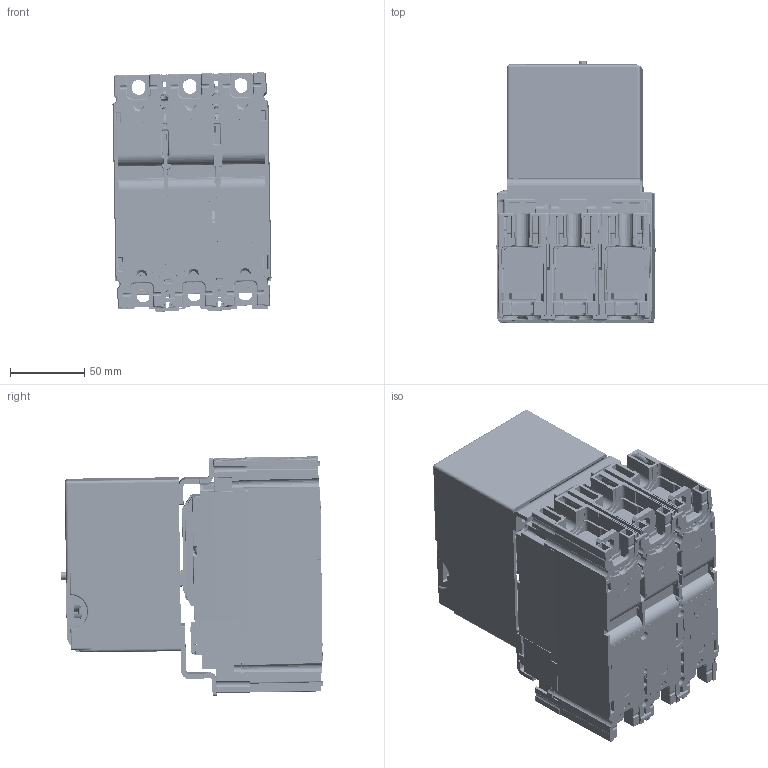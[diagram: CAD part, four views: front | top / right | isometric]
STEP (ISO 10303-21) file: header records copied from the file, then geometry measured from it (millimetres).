
FILE_DESCRIPTION(('STEP AP242'), '1');
FILE_NAME('ÂÀ11-02 ñòàö. èñï. + ïðèâîä', '', ('UNSPECIFIED'), ('UNSPECIFIED'), 'C3D Converter', 'C3D Toolkit', '');
FILE_SCHEMA(('AP242_MANAGED_MODEL_BASED_3D_ENGINEERING_MIM_LF { 1 0 10303 442 1 1 4 }'));
Length unit declared in the file: millimetre
Bounding box: 107.37 x 176.8 x 161.55 mm (x, y, z)
Volume: 350239.8 mm3; surface area: 341151.1 mm2
Topology: 3 solids, 3 shells, 15589 faces, 40680 edges, 25437 vertices
Faces by surface type: plane 6856, cylinder 6203, bspline 2117, torus 133, cone 116, sphere 87, extrusion 77
Full cylindrical faces by diameter (mm): 1.5 x2, 1.6 x2, 1.8 x2, 2.3 x8, 2.4 x1, 2.5 x5, 2.6 x2, 2.8 x2, 2.9 x2, 3 x12, 3.25 x2, 3.3 x3, 3.4 x1, 3.5 x5, 3.6 x1, 3.7 x2, 4 x1, 4.2 x1, 4.5 x9, 4.8 x1, 4.9 x1, 5.3 x1, 5.4 x2, 5.5 x3, 5.6 x2, 5.9 x1, 6.1 x2, 6.3 x2, 7 x3, 7.2 x1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
Entity records: 851100 total; most frequent: CARTESIAN_POINT 360990, ORIENTED_EDGE 81010, DIRECTION 69802, EDGE_CURVE 40505, VERTEX_POINT 25433, VECTOR 24378, LINE 24301, AXIS2_PLACEMENT_3D 22712
